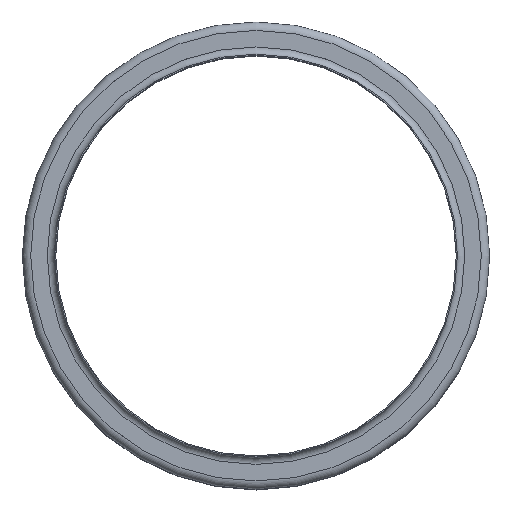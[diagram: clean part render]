
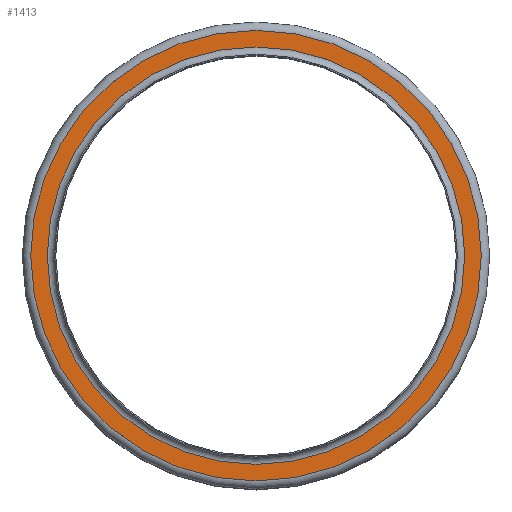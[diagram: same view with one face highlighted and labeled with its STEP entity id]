
A CAD part, top view. The second image highlights one B-rep face of the part: STEP entity #1413.
In plain terms, the highlighted planar face has unit normal (0, 0, 1).
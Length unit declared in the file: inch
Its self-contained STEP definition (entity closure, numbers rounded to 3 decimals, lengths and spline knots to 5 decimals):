
#127=FACE_BOUND('',#381,.T.);
#226=FACE_OUTER_BOUND('',#380,.T.);
#380=EDGE_LOOP('',(#1105));
#381=EDGE_LOOP('',(#1106));
#542=CIRCLE('',#1682,6.643);
#543=CIRCLE('',#1684,7.1695);
#655=VERTEX_POINT('',#2578);
#656=VERTEX_POINT('',#2582);
#808=EDGE_CURVE('',#655,#655,#542,.T.);
#809=EDGE_CURVE('',#656,#656,#543,.T.);
#1105=ORIENTED_EDGE('',*,*,#809,.F.);
#1106=ORIENTED_EDGE('',*,*,#808,.T.);
#1203=PLANE('',#1683);
#1413=ADVANCED_FACE('',(#226,#127),#1203,.T.);
#1682=AXIS2_PLACEMENT_3D('',#2580,#2178,#2179);
#1683=AXIS2_PLACEMENT_3D('',#2581,#2180,#2181);
#1684=AXIS2_PLACEMENT_3D('',#2583,#2182,#2183);
#2178=DIRECTION('center_axis',(0.,0.,-1.));
#2179=DIRECTION('ref_axis',(1.,0.,0.));
#2180=DIRECTION('center_axis',(0.,0.,1.));
#2181=DIRECTION('ref_axis',(1.,0.,0.));
#2182=DIRECTION('center_axis',(0.,0.,-1.));
#2183=DIRECTION('ref_axis',(1.,0.,0.));
#2578=CARTESIAN_POINT('',(6.643,0.,-0.232));
#2580=CARTESIAN_POINT('Origin',(0.,0.,-0.232));
#2581=CARTESIAN_POINT('Origin',(0.,7.1695,-0.232));
#2582=CARTESIAN_POINT('',(7.1695,0.,-0.232));
#2583=CARTESIAN_POINT('Origin',(0.,0.,-0.232));
